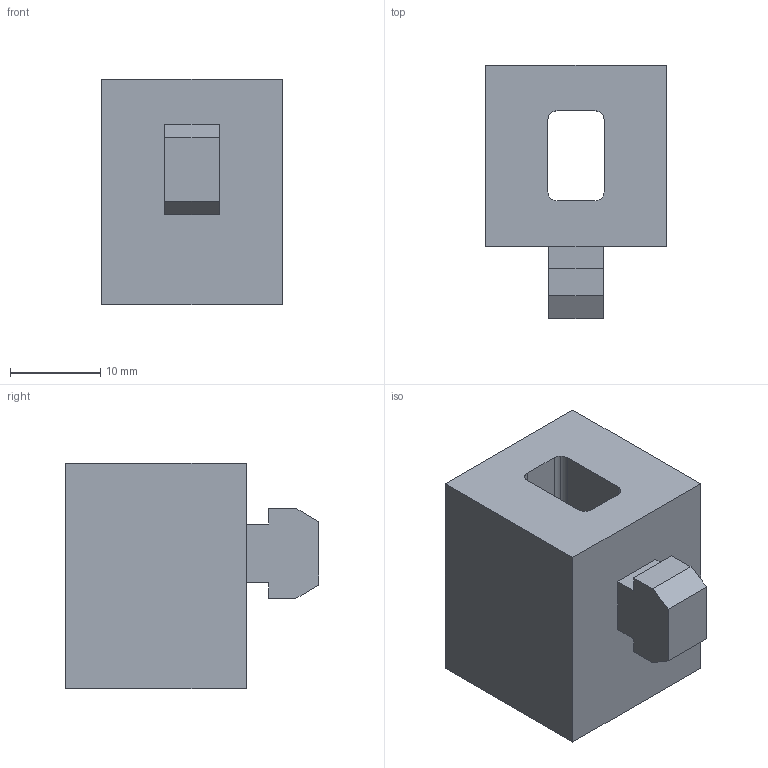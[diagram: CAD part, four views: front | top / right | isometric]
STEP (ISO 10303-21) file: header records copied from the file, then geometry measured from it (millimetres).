
FILE_DESCRIPTION (( 'STEP AP203' ), '1' );
FILE_NAME ('WSF406.STEP', '2024-02-19T06:33:42', ( '' ), ( '' ), 'SwSTEP 2.0', 'SolidWorks 2022', '' );
FILE_SCHEMA (( 'CONFIG_CONTROL_DESIGN' ));
Length unit declared in the file: millimetre
Products named in the file (1): WSF406
Bounding box: 20 x 28 x 25 mm (x, y, z)
Volume: 8332.2 mm3; surface area: 3939.1 mm2
Topology: 1 solids, 1 shells, 46 faces, 126 edges, 84 vertices
Faces by surface type: plane 30, cylinder 16
Entity records: 1547 total; most frequent: CARTESIAN_POINT 257, ORIENTED_EDGE 252, DIRECTION 252, EDGE_CURVE 126, VECTOR 94, LINE 94, VERTEX_POINT 84, AXIS2_PLACEMENT_3D 79
